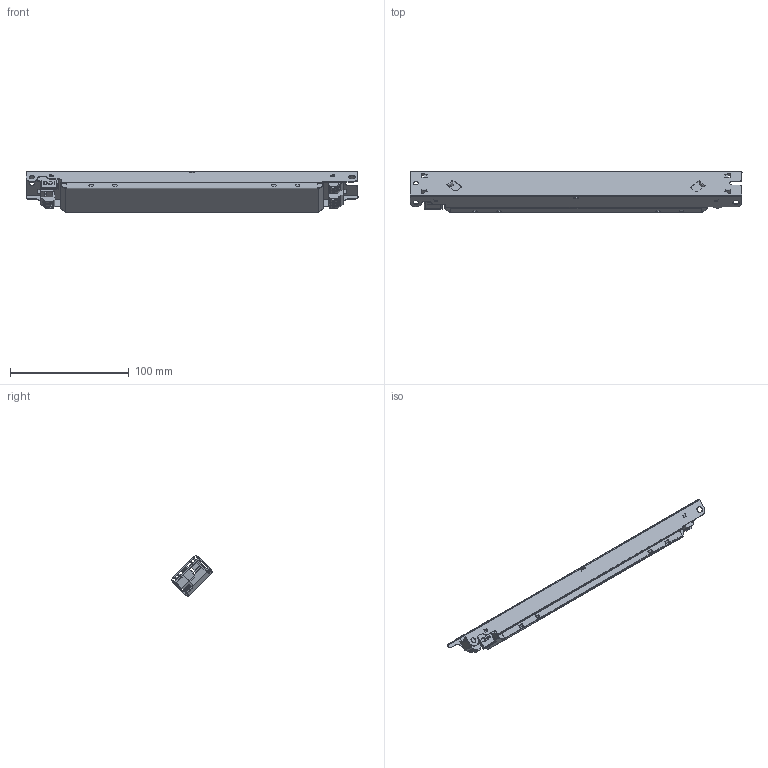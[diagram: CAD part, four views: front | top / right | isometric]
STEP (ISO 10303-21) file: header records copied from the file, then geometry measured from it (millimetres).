
FILE_DESCRIPTION (( 'STEP AP214' ), '1' );
FILE_NAME ('LL80HE-DA.STEP', '2022-04-25T16:51:20', ( '' ), ( '' ), 'SwSTEP 2.0', 'SolidWorks 2014', '' );
FILE_SCHEMA (( 'AUTOMOTIVE_DESIGN' ));
Length unit declared in the file: millimetre
Products named in the file (8): 3n; dippikytkin 2p; 2n; PCB_256; akselikokeilu; D007920_cover 16mm; nfc_antenni; LL80HE-DA
Assembly tree (8 placements, depth 2):
  LL80HE-DA
    akselikokeilu
    D007920_cover 16mm
    PCB_256
    2n  x2
    nfc_antenni
    dippikytkin 2p
    3n
Bounding box: 280 x 35.32 x 35.22 mm (x, y, z)
Volume: 29176.8 mm3; surface area: 73541.1 mm2
Topology: 8 solids, 8 shells, 1241 faces, 3256 edges, 2060 vertices
Faces by surface type: plane 810, cylinder 355, bspline 36, torus 16, cone 14, sphere 10
Entity records: 36361 total; most frequent: CARTESIAN_POINT 7411, ORIENTED_EDGE 5926, DIRECTION 5574, EDGE_CURVE 2963, LINE 2116, VECTOR 2116, VERTEX_POINT 1868, AXIS2_PLACEMENT_3D 1729
